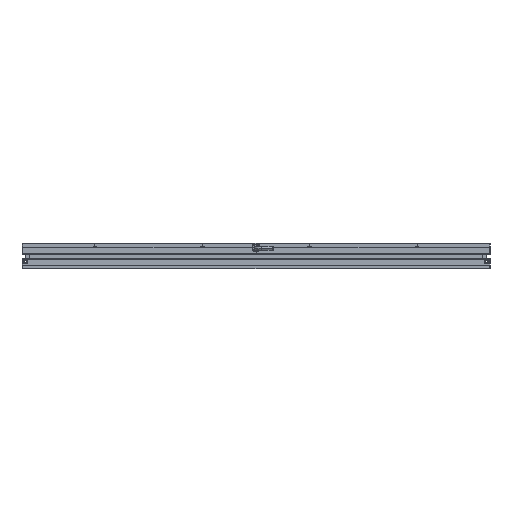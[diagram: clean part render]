
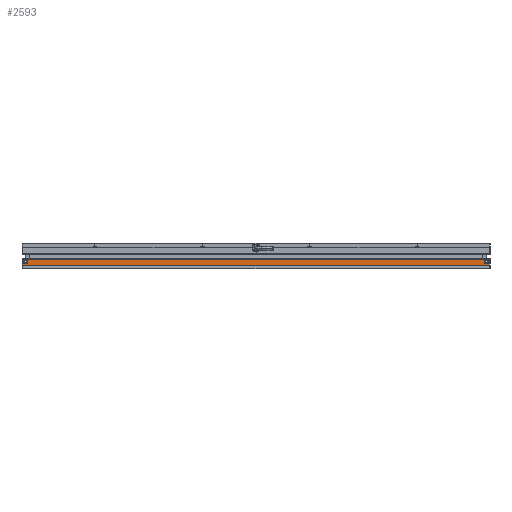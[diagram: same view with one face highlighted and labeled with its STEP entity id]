
A CAD part, left-side view. The second image highlights one B-rep face of the part: STEP entity #2593.
In plain terms, the highlighted planar face has unit normal (-1, 0, 0).
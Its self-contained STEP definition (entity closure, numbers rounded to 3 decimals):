
#26 = VECTOR ( 'NONE', #1908, 1000. ) ;
#29 = DIRECTION ( 'NONE',  ( 0., 0., 1. ) ) ;
#132 = LINE ( 'NONE', #8989, #3176 ) ;
#251 = CARTESIAN_POINT ( 'NONE',  ( -207., -206.5, -9.85 ) ) ;
#321 = CARTESIAN_POINT ( 'NONE',  ( -207., 204., -12.5 ) ) ;
#496 = VECTOR ( 'NONE', #6745, 1000. ) ;
#810 = FACE_OUTER_BOUND ( 'NONE', #7388, .T. ) ;
#978 = AXIS2_PLACEMENT_3D ( 'NONE', #7073, #2920, #6428 ) ;
#1016 = DIRECTION ( 'NONE',  ( 1., 0., 0. ) ) ;
#1397 = DIRECTION ( 'NONE',  ( 1., 0., 0. ) ) ;
#1585 = AXIS2_PLACEMENT_3D ( 'NONE', #7088, #1397, #29 ) ;
#1744 = AXIS2_PLACEMENT_3D ( 'NONE', #321, #1016, #8753 ) ;
#1819 = EDGE_CURVE ( 'NONE', #8746, #6997, #5193, .T. ) ;
#1823 = CARTESIAN_POINT ( 'NONE',  ( -207., 206.5, -9.85 ) ) ;
#1908 = DIRECTION ( 'NONE',  ( 0., -1., 0. ) ) ;
#1968 = CARTESIAN_POINT ( 'NONE',  ( -207., -204., -14.5 ) ) ;
#1985 = ORIENTED_EDGE ( 'NONE', *, *, #6999, .T. ) ;
#2064 = EDGE_LOOP ( 'NONE', ( #7985, #6963 ) ) ;
#2189 = DIRECTION ( 'NONE',  ( 1., 0., 0. ) ) ;
#2197 = EDGE_LOOP ( 'NONE', ( #2451, #3332 ) ) ;
#2257 = CARTESIAN_POINT ( 'NONE',  ( -207., 204., -10.5 ) ) ;
#2329 = LINE ( 'NONE', #8898, #26 ) ;
#2451 = ORIENTED_EDGE ( 'NONE', *, *, #9000, .T. ) ;
#2593 = ADVANCED_FACE ( 'NONE', ( #7383, #7924, #810 ), #2800, .F. ) ;
#2597 = CIRCLE ( 'NONE', #7653, 2. ) ;
#2747 = VERTEX_POINT ( 'NONE', #2257 ) ;
#2751 = LINE ( 'NONE', #8011, #4280 ) ;
#2800 = PLANE ( 'NONE',  #1585 ) ;
#2886 = DIRECTION ( 'NONE',  ( 0., 0., -1. ) ) ;
#2920 = DIRECTION ( 'NONE',  ( 1., 0., 0. ) ) ;
#2943 = EDGE_CURVE ( 'NONE', #2747, #5132, #4423, .T. ) ;
#3035 = CIRCLE ( 'NONE', #978, 2. ) ;
#3079 = CIRCLE ( 'NONE', #8583, 2. ) ;
#3176 = VECTOR ( 'NONE', #6185, 1000. ) ;
#3332 = ORIENTED_EDGE ( 'NONE', *, *, #4083, .T. ) ;
#3843 = ORIENTED_EDGE ( 'NONE', *, *, #7612, .F. ) ;
#3886 = CARTESIAN_POINT ( 'NONE',  ( -207., 206.5, 0. ) ) ;
#4083 = EDGE_CURVE ( 'NONE', #6387, #8870, #3079, .T. ) ;
#4216 = EDGE_CURVE ( 'NONE', #8746, #9068, #132, .T. ) ;
#4280 = VECTOR ( 'NONE', #5940, 1000. ) ;
#4423 = CIRCLE ( 'NONE', #1744, 2. ) ;
#4559 = ORIENTED_EDGE ( 'NONE', *, *, #4216, .F. ) ;
#4638 = DIRECTION ( 'NONE',  ( 1., 0., 0. ) ) ;
#5132 = VERTEX_POINT ( 'NONE', #6343 ) ;
#5193 = LINE ( 'NONE', #3886, #496 ) ;
#5274 = ORIENTED_EDGE ( 'NONE', *, *, #1819, .T. ) ;
#5412 = CARTESIAN_POINT ( 'NONE',  ( -207., -204., -12.5 ) ) ;
#5464 = VERTEX_POINT ( 'NONE', #8848 ) ;
#5940 = DIRECTION ( 'NONE',  ( 0., 0., -1. ) ) ;
#6185 = DIRECTION ( 'NONE',  ( 0., -1., 0. ) ) ;
#6327 = EDGE_CURVE ( 'NONE', #5132, #2747, #2597, .T. ) ;
#6343 = CARTESIAN_POINT ( 'NONE',  ( -207., 204., -14.5 ) ) ;
#6387 = VERTEX_POINT ( 'NONE', #8739 ) ;
#6428 = DIRECTION ( 'NONE',  ( 0., 0., -1. ) ) ;
#6745 = DIRECTION ( 'NONE',  ( 0., 0., -1. ) ) ;
#6909 = CARTESIAN_POINT ( 'NONE',  ( -207., 206.5, -15.5 ) ) ;
#6963 = ORIENTED_EDGE ( 'NONE', *, *, #2943, .T. ) ;
#6997 = VERTEX_POINT ( 'NONE', #6909 ) ;
#6999 = EDGE_CURVE ( 'NONE', #6997, #5464, #2329, .T. ) ;
#7073 = CARTESIAN_POINT ( 'NONE',  ( -207., -204., -12.5 ) ) ;
#7088 = CARTESIAN_POINT ( 'NONE',  ( -207., 207., -15.5 ) ) ;
#7383 = FACE_BOUND ( 'NONE', #2064, .T. ) ;
#7388 = EDGE_LOOP ( 'NONE', ( #4559, #5274, #1985, #3843 ) ) ;
#7612 = EDGE_CURVE ( 'NONE', #9068, #5464, #2751, .T. ) ;
#7653 = AXIS2_PLACEMENT_3D ( 'NONE', #7918, #2189, #2886 ) ;
#7918 = CARTESIAN_POINT ( 'NONE',  ( -207., 204., -12.5 ) ) ;
#7924 = FACE_BOUND ( 'NONE', #2197, .T. ) ;
#7985 = ORIENTED_EDGE ( 'NONE', *, *, #6327, .T. ) ;
#8011 = CARTESIAN_POINT ( 'NONE',  ( -207., -206.5, 0. ) ) ;
#8072 = DIRECTION ( 'NONE',  ( 0., 0., -1. ) ) ;
#8583 = AXIS2_PLACEMENT_3D ( 'NONE', #5412, #4638, #8072 ) ;
#8739 = CARTESIAN_POINT ( 'NONE',  ( -207., -204., -10.5 ) ) ;
#8746 = VERTEX_POINT ( 'NONE', #1823 ) ;
#8753 = DIRECTION ( 'NONE',  ( 0., 0., -1. ) ) ;
#8848 = CARTESIAN_POINT ( 'NONE',  ( -207., -206.5, -15.5 ) ) ;
#8870 = VERTEX_POINT ( 'NONE', #1968 ) ;
#8898 = CARTESIAN_POINT ( 'NONE',  ( -207., 207., -15.5 ) ) ;
#8989 = CARTESIAN_POINT ( 'NONE',  ( -207., 207., -9.85 ) ) ;
#9000 = EDGE_CURVE ( 'NONE', #8870, #6387, #3035, .T. ) ;
#9068 = VERTEX_POINT ( 'NONE', #251 ) ;
